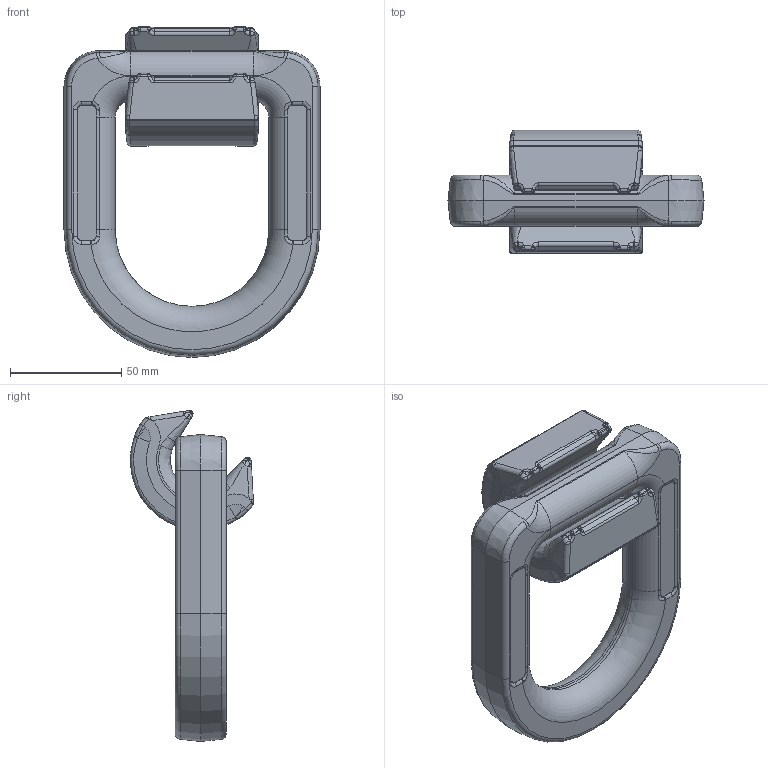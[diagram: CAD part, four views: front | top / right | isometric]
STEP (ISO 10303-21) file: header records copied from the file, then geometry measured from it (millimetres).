
FILE_DESCRIPTION (( 'STEP AP214' ), '1' );
FILE_NAME ('TWLP670.STEP', '2024-02-12T20:31:39', ( '' ), ( '' ), 'SwSTEP 2.0', 'SolidWorks 2018', '' );
FILE_SCHEMA (( 'AUTOMOTIVE_DESIGN' ));
Length unit declared in the file: inch
Products named in the file (3): TWLP670_01; TWLP670; TWLP670_02
Assembly tree (2 placements, depth 2):
  TWLP670
    TWLP670_02
    TWLP670_01
Bounding box: 115 x 55.39 x 148.66 mm (x, y, z)
Volume: 255727.6 mm3; surface area: 43785.8 mm2
Topology: 2 solids, 2 shells, 415 faces, 1020 edges, 604 vertices
Faces by surface type: bspline 172, cylinder 117, torus 54, plane 48, cone 24
Entity records: 62395 total; most frequent: CARTESIAN_POINT 54035, ORIENTED_EDGE 2024, DIRECTION 1238, EDGE_CURVE 1012, VERTEX_POINT 604, AXIS2_PLACEMENT_3D 498, B_SPLINE_CURVE_WITH_KNOTS 470, EDGE_LOOP 420
